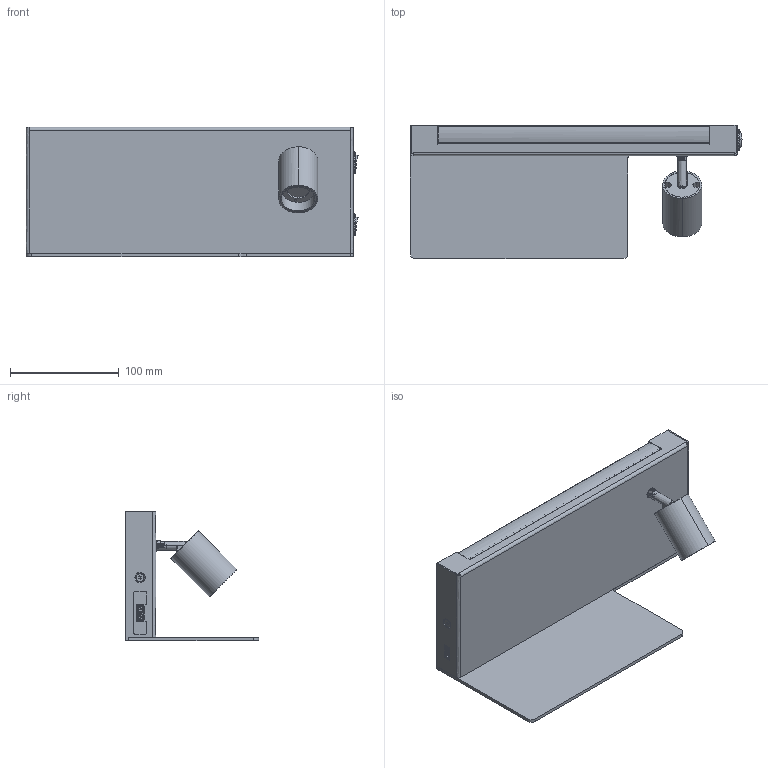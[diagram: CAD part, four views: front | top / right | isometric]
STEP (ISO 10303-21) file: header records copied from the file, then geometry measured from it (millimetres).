
FILE_DESCRIPTION(/* description */ (''),/* implementation_level */ '2;1');
FILE_NAME(/* name */ 'A136.033',/* time_stamp */ '2024-09-02T14:45:25+02:00',/* author */ (''),/* organization */ (''),/* preprocessor_version */ 'ST-DEVELOPER v16.5',/* originating_system */ '',/* authorisation */ '');
FILE_SCHEMA (('AUTOMOTIVE_DESIGN'));
Products named in the file (1): Document
Bounding box: 305.86 x 123 x 119.28 mm (x, y, z)
Volume: 237947.3 mm3; surface area: 259049.9 mm2
Topology: 46 solids, 47 shells, 3133 faces, 8517 edges, 5486 vertices
Faces by surface type: plane 1986, bspline 1147
Entity records: 115910 total; most frequent: CARTESIAN_POINT 62674, ORIENTED_EDGE 16920, EDGE_CURVE 8485, B_SPLINE_CURVE_WITH_KNOTS 6357, VERTEX_POINT 5486, EDGE_LOOP 3325, ADVANCED_FACE 3133, FACE_OUTER_BOUND 3133
